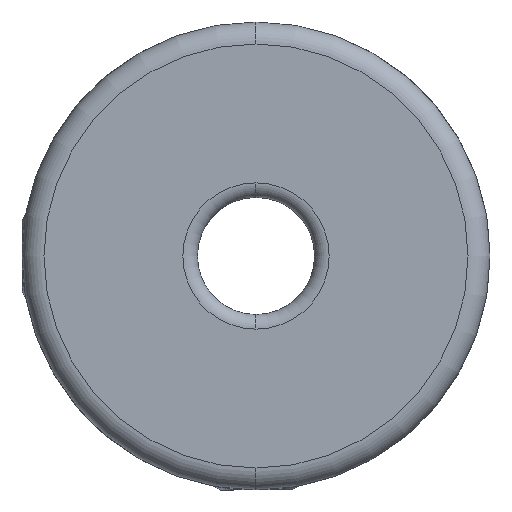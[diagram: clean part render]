
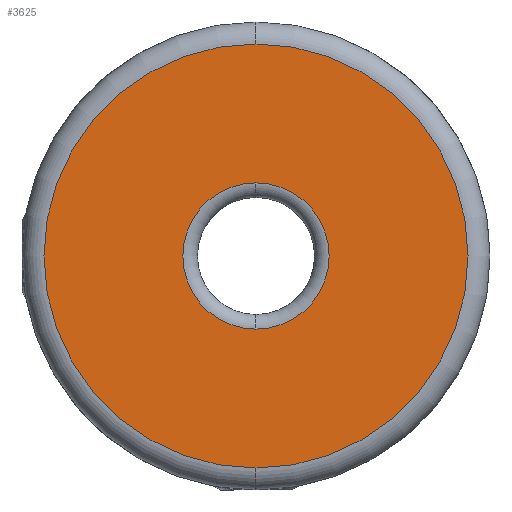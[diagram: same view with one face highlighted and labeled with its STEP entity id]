
A CAD part, left-side view. The second image highlights one B-rep face of the part: STEP entity #3625.
In plain terms, the highlighted planar face has unit normal (-1, 0, 0).
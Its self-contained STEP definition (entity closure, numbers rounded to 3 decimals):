
#35 = DIRECTION ( 'NONE',  ( 0., 0., -1. ) ) ;
#60 = DIRECTION ( 'NONE',  ( 1., 0., 0. ) ) ;
#74 = CARTESIAN_POINT ( 'NONE',  ( -11.5, 0., 0. ) ) ;
#97 = DIRECTION ( 'NONE',  ( 0., 0., -1. ) ) ;
#113 = DIRECTION ( 'NONE',  ( -1., 0., 0. ) ) ;
#127 = CARTESIAN_POINT ( 'NONE',  ( -11.5, 0., 0. ) ) ;
#148 = CARTESIAN_POINT ( 'NONE',  ( -11.5, 0., 2.5 ) ) ;
#339 = EDGE_LOOP ( 'NONE', ( #1276, #3177 ) ) ;
#376 = DIRECTION ( 'NONE',  ( 1., 0., 0. ) ) ;
#406 = AXIS2_PLACEMENT_3D ( 'NONE', #2427, #376, #2786 ) ;
#431 = AXIS2_PLACEMENT_3D ( 'NONE', #3794, #1787, #4137 ) ;
#1125 = CIRCLE ( 'NONE', #3213, 2.5 ) ;
#1219 = EDGE_LOOP ( 'NONE', ( #1957, #3733 ) ) ;
#1225 = CIRCLE ( 'NONE', #431, 7.25 ) ;
#1276 = ORIENTED_EDGE ( 'NONE', *, *, #1318, .T. ) ;
#1318 = EDGE_CURVE ( 'NONE', #2856, #3975, #3826, .T. ) ;
#1483 = VERTEX_POINT ( 'NONE', #3923 ) ;
#1510 = EDGE_CURVE ( 'NONE', #4288, #1483, #3722, .T. ) ;
#1530 = EDGE_CURVE ( 'NONE', #3975, #2856, #1125, .T. ) ;
#1787 = DIRECTION ( 'NONE',  ( -1., 0., 0. ) ) ;
#1957 = ORIENTED_EDGE ( 'NONE', *, *, #1510, .T. ) ;
#2427 = CARTESIAN_POINT ( 'NONE',  ( -11.5, 0., 0. ) ) ;
#2452 = PLANE ( 'NONE',  #406 ) ;
#2527 = DIRECTION ( 'NONE',  ( 0., 0., -1. ) ) ;
#2541 = DIRECTION ( 'NONE',  ( 1., 0., 0. ) ) ;
#2553 = CARTESIAN_POINT ( 'NONE',  ( -11.5, 0., 0. ) ) ;
#2623 = CARTESIAN_POINT ( 'NONE',  ( -11.5, 0., -7.25 ) ) ;
#2786 = DIRECTION ( 'NONE',  ( 0., 0., -1. ) ) ;
#2856 = VERTEX_POINT ( 'NONE', #3311 ) ;
#3033 = FACE_BOUND ( 'NONE', #339, .T. ) ;
#3177 = ORIENTED_EDGE ( 'NONE', *, *, #1530, .T. ) ;
#3213 = AXIS2_PLACEMENT_3D ( 'NONE', #74, #60, #35 ) ;
#3243 = AXIS2_PLACEMENT_3D ( 'NONE', #127, #113, #97 ) ;
#3311 = CARTESIAN_POINT ( 'NONE',  ( -11.5, 0., -2.5 ) ) ;
#3596 = AXIS2_PLACEMENT_3D ( 'NONE', #2553, #2541, #2527 ) ;
#3625 = ADVANCED_FACE ( 'NONE', ( #3033, #3924 ), #2452, .F. ) ;
#3646 = EDGE_CURVE ( 'NONE', #1483, #4288, #1225, .T. ) ;
#3722 = CIRCLE ( 'NONE', #3243, 7.25 ) ;
#3733 = ORIENTED_EDGE ( 'NONE', *, *, #3646, .T. ) ;
#3794 = CARTESIAN_POINT ( 'NONE',  ( -11.5, 0., 0. ) ) ;
#3826 = CIRCLE ( 'NONE', #3596, 2.5 ) ;
#3923 = CARTESIAN_POINT ( 'NONE',  ( -11.5, 0., 7.25 ) ) ;
#3924 = FACE_OUTER_BOUND ( 'NONE', #1219, .T. ) ;
#3975 = VERTEX_POINT ( 'NONE', #148 ) ;
#4137 = DIRECTION ( 'NONE',  ( 0., 0., -1. ) ) ;
#4288 = VERTEX_POINT ( 'NONE', #2623 ) ;
